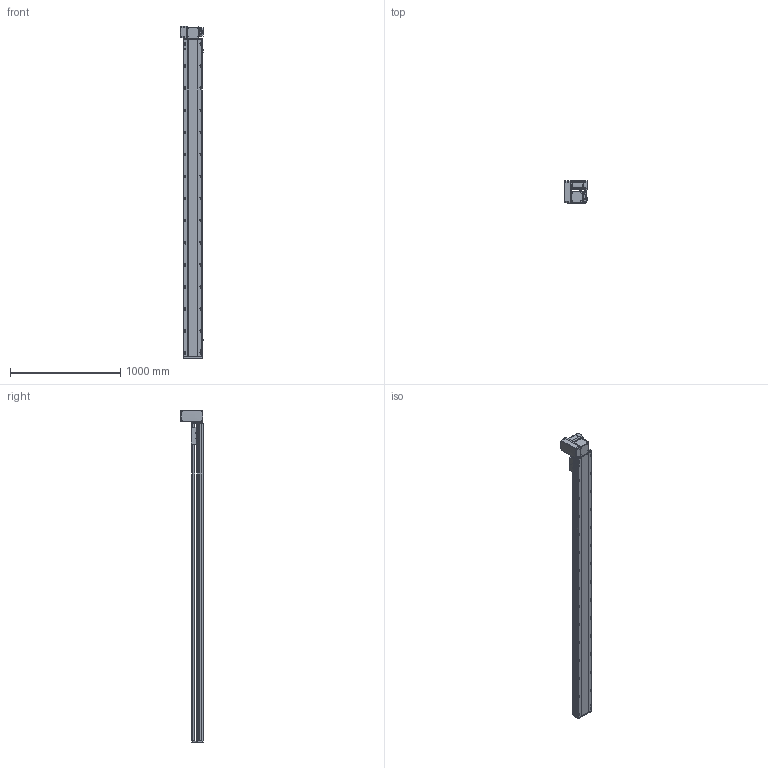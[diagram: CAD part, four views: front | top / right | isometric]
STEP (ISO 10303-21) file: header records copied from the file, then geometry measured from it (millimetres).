
FILE_DESCRIPTION (( 'STEP AP214' ), '1' );
FILE_NAME ('RTB17S-XX-2600-LW-M75-C4.STEP', '2025-12-12T01:17:55', ( '' ), ( '' ), 'SwSTEP 2.0', 'SolidWorks 2018', '' );
FILE_SCHEMA (( 'AUTOMOTIVE_DESIGN' ));
Length unit declared in the file: millimetre
Products named in the file (15): RTB17S-L-001-耜醱啣^RTB17S-XX-XX-LW-M75-C4; RTB17S-XX-2600-LW-M75-C4; RTB22S-GY-017P^RTB17S-LW-々湍釱蚾饜-750W_RTB17S-XX-XX-LW-M75-C4; RTB17S-L-004-賑釱^RTB17S-賑釱_RTB17S-XX-XX-LW-M75-C4; RTB22S-GY-008-M75--萇儂啣^RTB17S-LW-々湍釱蚾饜-750W_RTB17S-XX-XX-LW-M75-C4; 750W萇儂^RTB17S-XX-XX-LW-M75-C4; RTB22S-GY-005P^RTB17S-LW-々湍釱蚾饜-750W_RTB17S-XX-XX-LW-M75-C4; EE672^RTB17S-XX-XX-LW-M75-C4; RTB22S-GY-018P^RTB17S-LW-々湍釱蚾饜-750W_RTB17S-XX-XX-LW-M75-C4; RTB17S-賑釱^RTB17S-XX-XX-LW-M75-C4; RTH13-BL-012覜茼え俋离^RTB17S-賑釱_RTB17S-XX-XX-LW-M75-C4; RTB17S-L-007奻裔^RTB17S-XX-XX-LW-M75-C4; RTB17-R-011菁釱^RTB17S-XX-XX-LW-M75-C4; RTB17S-LW-々湍釱蚾饜-750W^RTB17S-XX-XX-LW-M75-C4; RTB17S-L-014-T20-P75--々湍釱^RTB17S-LW-々湍釱蚾饜-750W_RTB17S-XX-XX-LW-M75-C4
Assembly tree (17 placements, depth 3):
  RTB17S-XX-2600-LW-M75-C4
    RTB17-R-011菁釱^RTB17S-XX-XX-LW-M75-C4
    EE672^RTB17S-XX-XX-LW-M75-C4  x3
    RTB17S-L-001-耜醱啣^RTB17S-XX-XX-LW-M75-C4
    RTB17S-賑釱^RTB17S-XX-XX-LW-M75-C4
      RTB17S-L-004-賑釱^RTB17S-賑釱_RTB17S-XX-XX-LW-M75-C4
      RTH13-BL-012覜茼え俋离^RTB17S-賑釱_RTB17S-XX-XX-LW-M75-C4
    RTB17S-L-007奻裔^RTB17S-XX-XX-LW-M75-C4
    750W萇儂^RTB17S-XX-XX-LW-M75-C4
    RTB17S-LW-々湍釱蚾饜-750W^RTB17S-XX-XX-LW-M75-C4
      RTB17S-L-014-T20-P75--々湍釱^RTB17S-LW-々湍釱蚾饜-750W_RTB17S-XX-XX-LW-M75-C4
      RTB22S-GY-005P^RTB17S-LW-々湍釱蚾饜-750W_RTB17S-XX-XX-LW-M75-C4
      RTB22S-GY-017P^RTB17S-LW-々湍釱蚾饜-750W_RTB17S-XX-XX-LW-M75-C4  x2
      RTB22S-GY-008-M75--萇儂啣^RTB17S-LW-々湍釱蚾饜-750W_RTB17S-XX-XX-LW-M75-C4
      RTB22S-GY-018P^RTB17S-LW-々湍釱蚾饜-750W_RTB17S-XX-XX-LW-M75-C4
Bounding box: 210.4 x 201.5 x 3007.5 mm (x, y, z)
Volume: 22205614.4 mm3; surface area: 4035346.5 mm2
Topology: 17 solids, 17 shells, 2217 faces, 6214 edges, 4022 vertices
Faces by surface type: plane 986, cylinder 815, bspline 294, cone 110, sphere 8, torus 4
Entity records: 64246 total; most frequent: CARTESIAN_POINT 19078, ORIENTED_EDGE 9272, DIRECTION 8582, EDGE_CURVE 4636, AXIS2_PLACEMENT_3D 3042, VERTEX_POINT 3026, VECTOR 2498, LINE 2498
